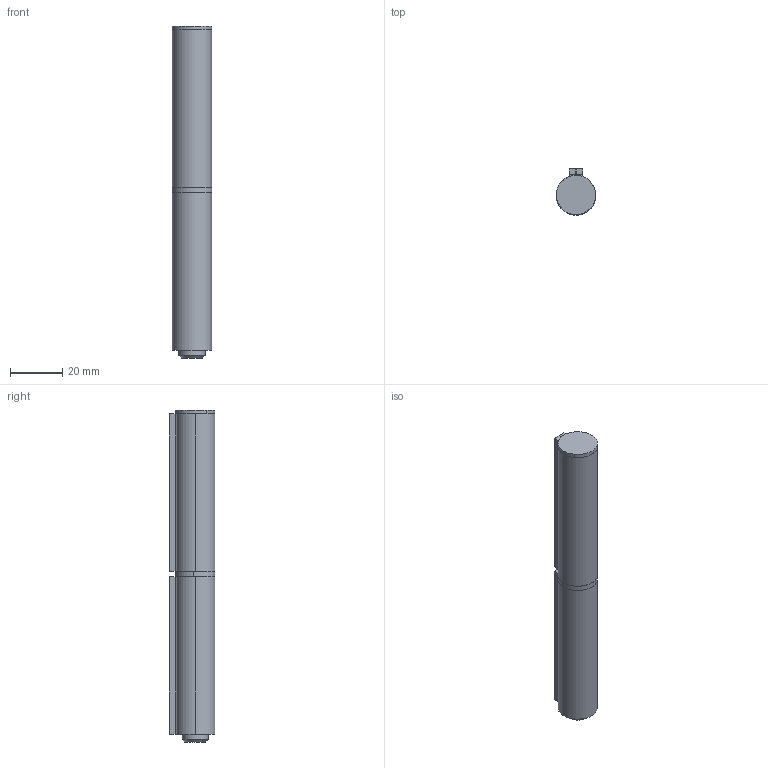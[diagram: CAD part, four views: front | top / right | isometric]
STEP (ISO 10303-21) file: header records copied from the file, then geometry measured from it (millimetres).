
FILE_DESCRIPTION (( 'STEP AP203' ), '1' );
FILE_NAME ('5.V32.124_02-00.STEP', '2025-03-25T08:30:23', ( '' ), ( '' ), 'SwSTEP 2.0', 'SolidWorks 2021', '' );
FILE_SCHEMA (( 'CONFIG_CONTROL_DESIGN' ));
Length unit declared in the file: millimetre
Products named in the file (4): 5.V32.124_02-00; P.041286_00-00; P.040986_02-00; P.041287_02-01
Assembly tree (4 placements, depth 2):
  5.V32.124_02-00
    P.040986_02-00  x2
    P.041286_00-00
    P.041287_02-01
Bounding box: 15 x 17.5 x 126.5 mm (x, y, z)
Volume: 23331.4 mm3; surface area: 16174.2 mm2
Topology: 4 solids, 4 shells, 67 faces, 140 edges, 82 vertices
Faces by surface type: plane 37, cylinder 28, cone 2
Entity records: 1522 total; most frequent: DIRECTION 218, CARTESIAN_POINT 182, ORIENTED_EDGE 168, AXIS2_PLACEMENT_3D 86, EDGE_CURVE 84, VERTEX_POINT 50, LINE 46, VECTOR 46
